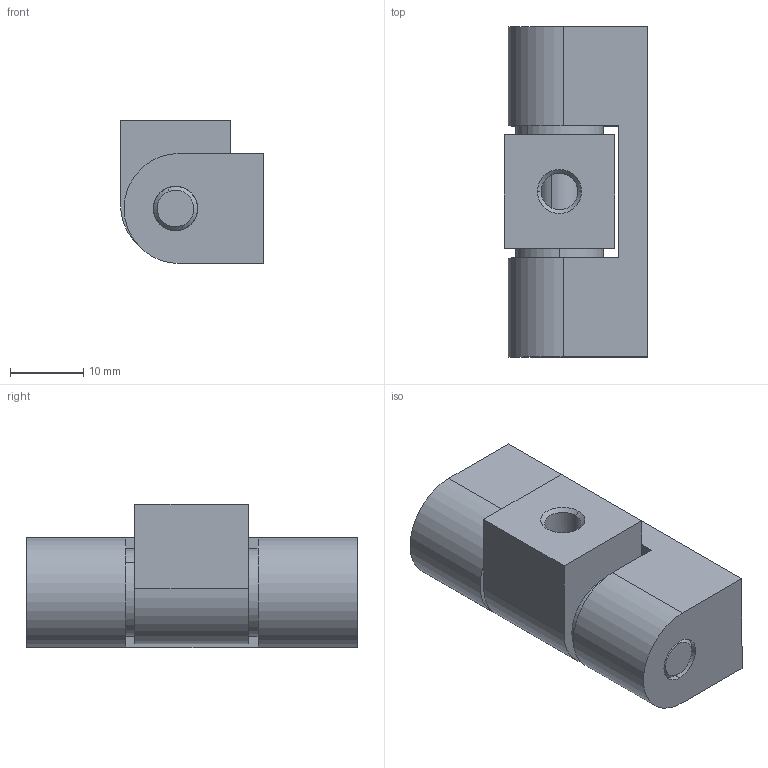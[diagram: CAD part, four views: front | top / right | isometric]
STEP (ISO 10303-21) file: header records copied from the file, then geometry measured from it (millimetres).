
FILE_DESCRIPTION (( 'STEP AP214' ), '1' );
FILE_NAME ('3.ST53.001.STEP', '2010-02-09T15:44:24', ( '£ukaszC' ), ( '' ), 'SwSTEP 2.0', 'SolidWorks 2008', '' );
FILE_SCHEMA (( 'AUTOMOTIVE_DESIGN' ));
Length unit declared in the file: millimetre
Products named in the file (5): 3A.ST53.02.01.00; 3A.ST53.01.01.00; 3A.ST53.04.00.00; 3A.ST53.03.00.00; 3.ST53.001
Assembly tree (5 placements, depth 2):
  3.ST53.001
    3A.ST53.01.01.00
    3A.ST53.02.01.00
    3A.ST53.03.00.00
    3A.ST53.04.00.00  x2
Bounding box: 19.5 x 45 x 19.5 mm (x, y, z)
Volume: 11767.4 mm3; surface area: 7545.7 mm2
Topology: 5 solids, 5 shells, 160 faces, 380 edges, 250 vertices
Faces by surface type: plane 121, cylinder 29, cone 10
Entity records: 4804 total; most frequent: CARTESIAN_POINT 949, DIRECTION 768, ORIENTED_EDGE 724, EDGE_CURVE 362, VECTOR 262, LINE 262, AXIS2_PLACEMENT_3D 253, VERTEX_POINT 238
